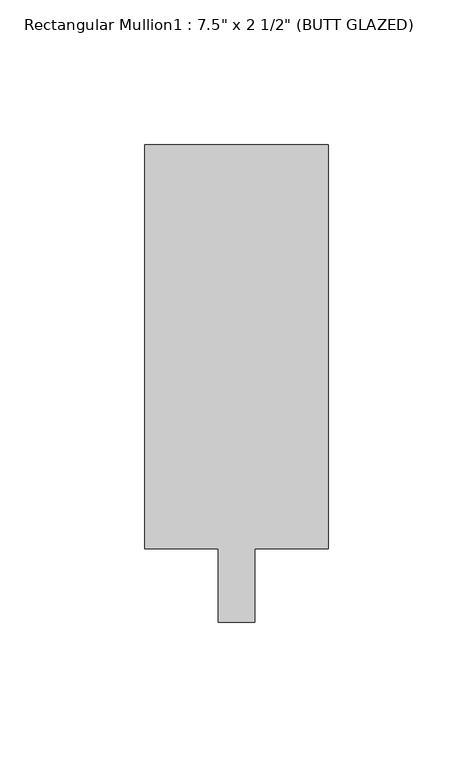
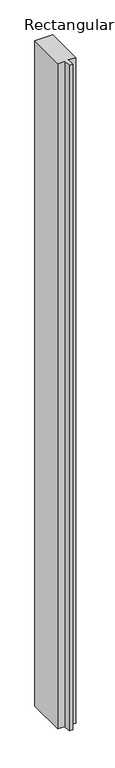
"""IFC4 building model written with IfcOpenShell, lengths in millimetres: member geometry."""

from ifc_helpers import new_model, si_unit, frame, origin, place, context, project, spatial, polyline, outline, extrude, source, transform, mapped, element, save


def member_f51bd522(model_context):
    return source(origin(), model_context, "Body", "SweptSolid", [
        extrude(outline(polyline([(31.75, 165.1), (31.75, 25.4), (6.35, 25.4), (6.35, 0.0), (-6.35, 0.0), (-6.35, 25.4), (-31.75, 25.4), (-31.75, 165.1), (31.75, 165.1)])), frame((0.0, 0.0, -2489.2), z_axis=(0.0, 0.0, 1.0), x_axis=(1.0, 0.0, 0.0)), (0.0, 0.0, 1.0), 2489.2),
    ])


if __name__ == "__main__":
    model = new_model("IFC4")
    model_context = context("Model", 3, world=origin())
    ifc_project = project(units=[si_unit("LENGTHUNIT", "METRE", prefix="MILLI")], contexts=[model_context])
    site = spatial("IfcSite", under=ifc_project)
    building = spatial("IfcBuilding", under=site)
    placement = place(None, origin())
    member_shape = member_f51bd522(model_context)
    element("IfcMember", 1, ObjectType="Rectangular Mullion1 : 7.5\" x 2 1/2\" (BUTT GLAZED)", at=placement, inside=building, context=model_context, shape_type="MappedRepresentation", body=[
        mapped(member_shape, transform((0.0, 0.0, 0.0), x_axis=(1.0, 0.0, 0.0), y_axis=(0.0, 1.0, 0.0), z_axis=(0.0, 0.0, 1.0))),
    ])
    save(model, "model.ifc")
